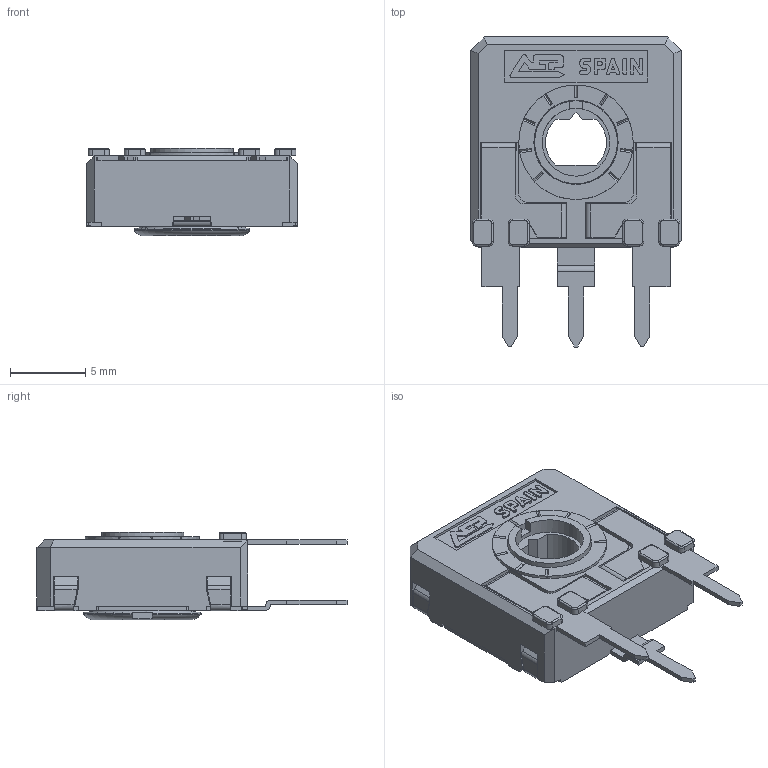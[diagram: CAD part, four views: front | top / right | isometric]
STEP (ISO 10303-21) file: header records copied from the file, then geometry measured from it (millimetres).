
FILE_DESCRIPTION(/* description */ (''),/* implementation_level */ '2;1');
FILE_NAME(/* name */ '\\SERVERACP\intercambio\Ignacio Santa Cecilia\Nueva WEB 2025\CA14 - CE14\CA14KH4.stp',/* time_stamp */ '2025-06-06T10:47:37+02:00',/* author */ ('CEM'),/* organization */ (''),/* preprocessor_version */ 'ST-DEVELOPER v17',/* originating_system */ 'Autodesk Inventor 2018',/* authorisation */ '');
FILE_SCHEMA (('AUTOMOTIVE_DESIGN { 1 0 10303 214 3 1 1 }'));
Length unit declared in the file: millimetre
Products named in the file (1): CARCASA CA14 PGA
Bounding box: 14 x 20.6 x 5.8 mm (x, y, z)
Volume: 529.9 mm3; surface area: 1447.2 mm2
Topology: 1 solids, 1 shells, 668 faces, 1886 edges, 1214 vertices
Faces by surface type: plane 496, cylinder 135, torus 23, bspline 8, cone 6
Full cylindrical faces by diameter (mm): 4.5 x1, 5.5 x1, 5.6 x1, 5.752 x1, 6.8 x1, 7.6 x1
Entity records: 21806 total; most frequent: CARTESIAN_POINT 4066, ORIENTED_EDGE 3772, DIRECTION 3518, EDGE_CURVE 1886, LINE 1486, VECTOR 1486, VERTEX_POINT 1214, AXIS2_PLACEMENT_3D 1016
